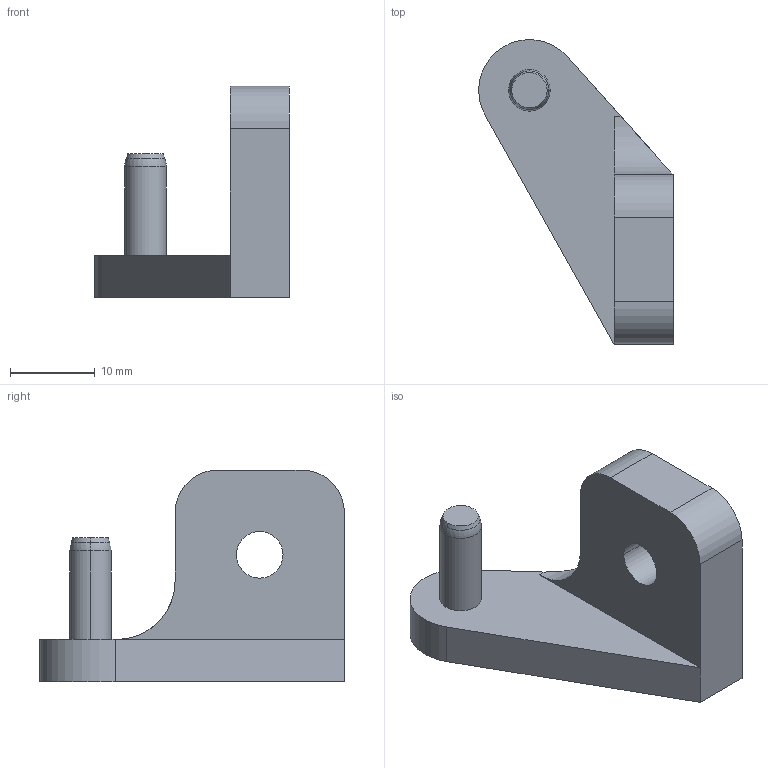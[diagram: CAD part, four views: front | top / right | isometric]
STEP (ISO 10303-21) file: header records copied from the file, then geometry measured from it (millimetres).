
FILE_DESCRIPTION (( 'STEP AP214' ), '1' );
FILE_NAME ('VerticalAxisTransportBlocker.STEP', '2026-04-26T08:16:35', ( '' ), ( '' ), 'SwSTEP 2.0', 'SolidWorks 2010', '' );
FILE_SCHEMA (( 'AUTOMOTIVE_DESIGN' ));
Length unit declared in the file: millimetre
Products named in the file (1): VerticalAxisTransportBlocker
Bounding box: 23 x 36 x 25 mm (x, y, z)
Volume: 5225.1 mm3; surface area: 2707.4 mm2
Topology: 1 solids, 1 shells, 22 faces, 51 edges, 32 vertices
Faces by surface type: plane 10, cylinder 8, torus 2, cone 2
Entity records: 666 total; most frequent: DIRECTION 117, CARTESIAN_POINT 109, ORIENTED_EDGE 102, EDGE_CURVE 51, AXIS2_PLACEMENT_3D 44, VERTEX_POINT 32, LINE 29, VECTOR 29
